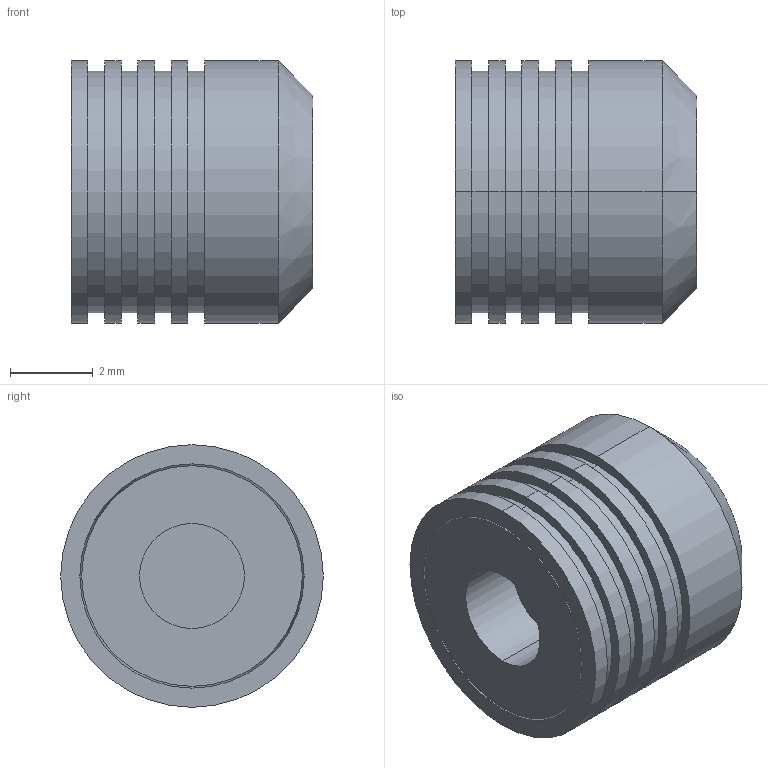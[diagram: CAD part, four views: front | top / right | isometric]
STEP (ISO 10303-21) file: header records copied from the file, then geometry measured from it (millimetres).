
FILE_DESCRIPTION (( 'STEP AP214' ), '1' );
FILE_NAME ('JELA2510____.STEP', '2021-11-04T13:28:19', ( '' ), ( '' ), 'SwSTEP 2.0', 'SolidWorks 2019', '' );
FILE_SCHEMA (( 'AUTOMOTIVE_DESIGN' ));
Length unit declared in the file: inch
Products named in the file (1): JELA2510____
Bounding box: 5.84 x 6.35 x 6.35 mm (x, y, z)
Volume: 162.5 mm3; surface area: 226.2 mm2
Topology: 1 solids, 1 shells, 38 faces, 74 edges, 48 vertices
Faces by surface type: cylinder 22, plane 12, cone 4
Entity records: 1034 total; most frequent: DIRECTION 200, CARTESIAN_POINT 161, ORIENTED_EDGE 148, AXIS2_PLACEMENT_3D 87, EDGE_CURVE 74, VERTEX_POINT 48, EDGE_LOOP 48, CIRCLE 48
